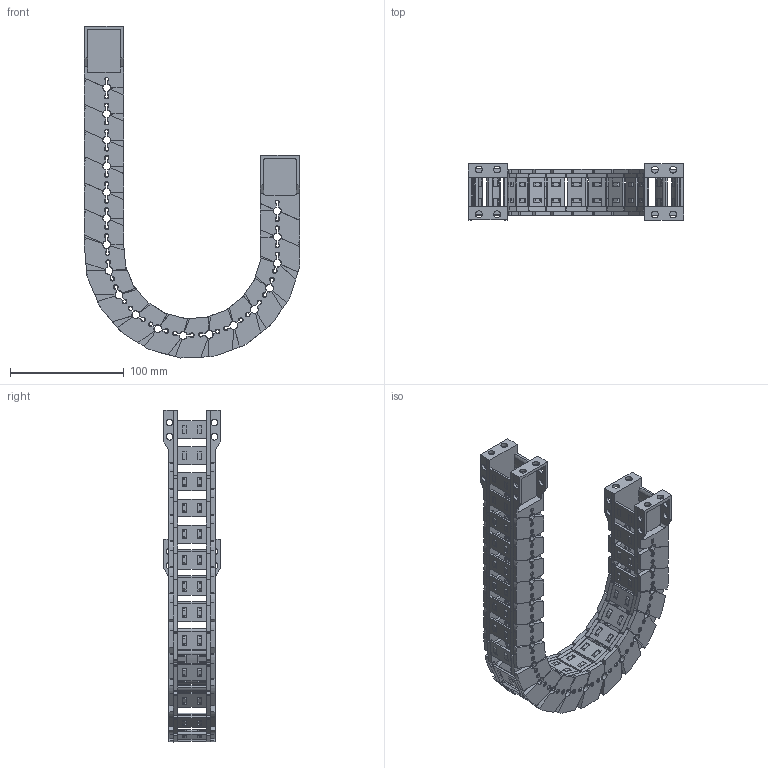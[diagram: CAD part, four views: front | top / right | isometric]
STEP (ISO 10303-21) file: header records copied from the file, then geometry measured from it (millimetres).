
FILE_DESCRIPTION(/* description */ (''),/* implementation_level */ '2;1');
FILE_NAME(/* name */ 'JY28-25-R75.stp',/* time_stamp */ '2026-06-03T13:25:09+08:00',/* author */ (''),/* organization */ (''),/* preprocessor_version */ 'ST-DEVELOPER v19.4',/* originating_system */ 'SIEMENS PLM Software NX2306.5001',/* authorisation */ '');
FILE_SCHEMA (('AP203_CONFIGURATION_CONTROLLED_3D_DESIGN_OF_MECHANICAL_PARTS_AND_ASSEMBLIES_MIM_LF { 1 0 10303 403 2 1 2}'));
Products named in the file (1): _model1_objects
Bounding box: 189.55 x 49.5 x 292.17 mm (x, y, z)
Volume: 266292 mm3; surface area: 197198.8 mm2
Topology: 74 solids, 74 shells, 6194 faces, 17618 edges, 11518 vertices
Faces by surface type: plane 4058, cone 1120, cylinder 978, bspline 36, torus 2
Full cylindrical faces by diameter (mm): 6 x24
Entity records: 209461 total; most frequent: CARTESIAN_POINT 46487, ORIENTED_EDGE 35144, DIRECTION 33002, EDGE_CURVE 17572, LINE 11632, VECTOR 11632, VERTEX_POINT 11496, AXIS2_PLACEMENT_3D 10685
